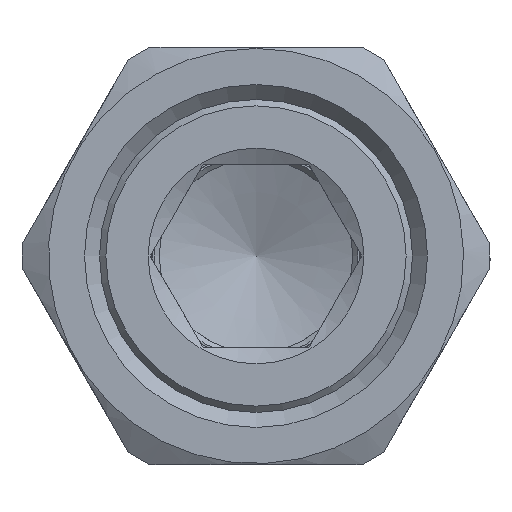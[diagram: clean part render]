
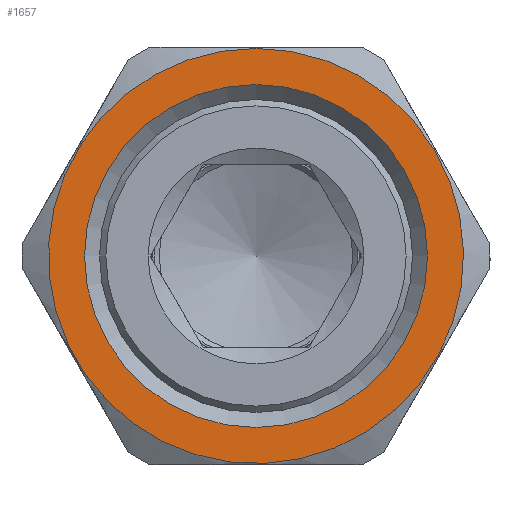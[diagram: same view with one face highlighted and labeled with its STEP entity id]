
A CAD part, left-side view. The second image highlights one B-rep face of the part: STEP entity #1657.
In plain terms, the highlighted planar face has unit normal (-1, 0, 0).
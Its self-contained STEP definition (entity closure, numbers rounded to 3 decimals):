
#458 = DIRECTION ( 'NONE',  ( -1., 0., 0. ) ) ;
#1165 = CARTESIAN_POINT ( 'NONE',  ( 0., 0., 16.85 ) ) ;
#1220 = AXIS2_PLACEMENT_3D ( 'NONE', #2099, #1614, #2560 ) ;
#1539 = ORIENTED_EDGE ( 'NONE', *, *, #6020, .T. ) ;
#1614 = DIRECTION ( 'NONE',  ( 1., 0., 0. ) ) ;
#1657 = ADVANCED_FACE ( 'NONE', ( #4101, #5665 ), #3937, .F. ) ;
#1667 = EDGE_LOOP ( 'NONE', ( #4567 ) ) ;
#2099 = CARTESIAN_POINT ( 'NONE',  ( 0., 16.85, 0. ) ) ;
#2351 = CARTESIAN_POINT ( 'NONE',  ( 0., 0., 0. ) ) ;
#2522 = VERTEX_POINT ( 'NONE', #1165 ) ;
#2560 = DIRECTION ( 'NONE',  ( 0., 0., -1. ) ) ;
#2857 = CIRCLE ( 'NONE', #5916, 20.4 ) ;
#3438 = CARTESIAN_POINT ( 'NONE',  ( 0., 0., 0. ) ) ;
#3498 = EDGE_LOOP ( 'NONE', ( #1539 ) ) ;
#3616 = AXIS2_PLACEMENT_3D ( 'NONE', #2351, #458, #3800 ) ;
#3655 = VERTEX_POINT ( 'NONE', #5952 ) ;
#3691 = CIRCLE ( 'NONE', #3616, 16.85 ) ;
#3800 = DIRECTION ( 'NONE',  ( 0., 0., 1. ) ) ;
#3937 = PLANE ( 'NONE',  #1220 ) ;
#4101 = FACE_BOUND ( 'NONE', #1667, .T. ) ;
#4567 = ORIENTED_EDGE ( 'NONE', *, *, #5369, .F. ) ;
#4941 = DIRECTION ( 'NONE',  ( -1., 0., 0. ) ) ;
#5360 = DIRECTION ( 'NONE',  ( 0., 0., 1. ) ) ;
#5369 = EDGE_CURVE ( 'NONE', #2522, #2522, #3691, .T. ) ;
#5665 = FACE_OUTER_BOUND ( 'NONE', #3498, .T. ) ;
#5916 = AXIS2_PLACEMENT_3D ( 'NONE', #3438, #4941, #5360 ) ;
#5952 = CARTESIAN_POINT ( 'NONE',  ( 0., 0., 20.4 ) ) ;
#6020 = EDGE_CURVE ( 'NONE', #3655, #3655, #2857, .T. ) ;
